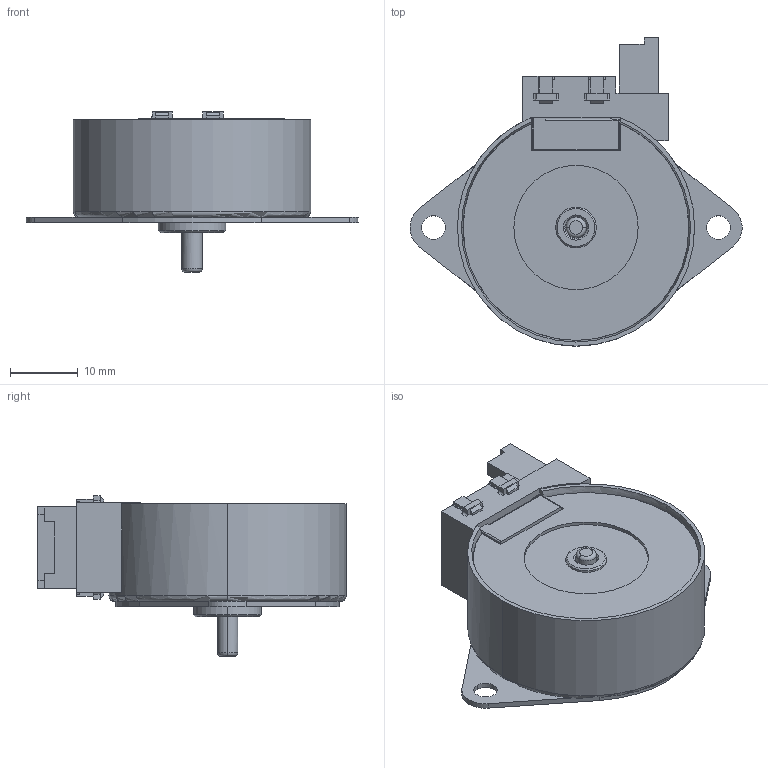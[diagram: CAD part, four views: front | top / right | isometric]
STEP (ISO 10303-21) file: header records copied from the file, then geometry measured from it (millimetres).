
FILE_DESCRIPTION (( 'STEP AP203' ), '1' );
FILE_NAME ('KJL35SC_3D.STEP', '2026-01-29T02:32:03', ( '' ), ( '' ), 'SwSTEP 2.0', 'SolidWorks 2022', '' );
FILE_SCHEMA (( 'CONFIG_CONTROL_DESIGN' ));
Length unit declared in the file: millimetre
Products named in the file (1): KJL35SC_3D
Bounding box: 48.98 x 45.5 x 23.68 mm (x, y, z)
Volume: 15581.6 mm3; surface area: 5561.8 mm2
Topology: 1 solids, 1 shells, 301 faces, 759 edges, 487 vertices
Faces by surface type: plane 149, cylinder 93, cone 47, torus 11, sphere 1
Entity records: 9307 total; most frequent: CARTESIAN_POINT 1811, DIRECTION 1599, ORIENTED_EDGE 1518, EDGE_CURVE 759, AXIS2_PLACEMENT_3D 569, VERTEX_POINT 487, LINE 461, VECTOR 461
